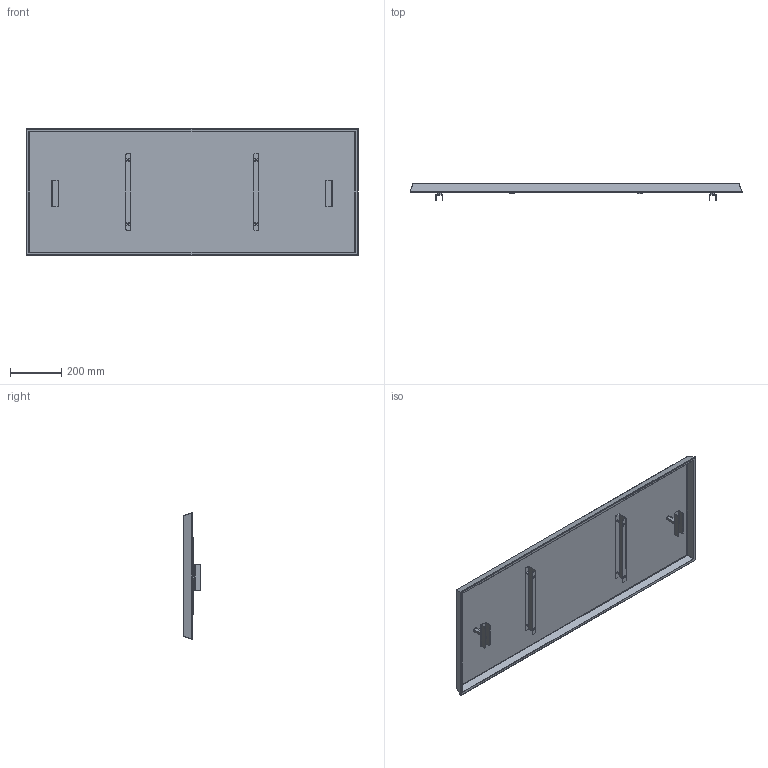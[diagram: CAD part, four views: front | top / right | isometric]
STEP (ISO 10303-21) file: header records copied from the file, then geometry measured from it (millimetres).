
FILE_DESCRIPTION (( 'STEP AP203' ), '1' );
FILE_NAME ('EMTT120040.STEP', '2024-10-22T12:34:20', ( '' ), ( '' ), 'SwSTEP 2.0', 'SolidWorks 2022', '' );
FILE_SCHEMA (( 'CONFIG_CONTROL_DESIGN' ));
Length unit declared in the file: millimetre
Products named in the file (1): EMTT120040
Bounding box: 1299.11 x 69.35 x 495.11 mm (x, y, z)
Volume: 1144377.8 mm3; surface area: 1645325 mm2
Topology: 1 solids, 1 shells, 144 faces, 364 edges, 236 vertices
Faces by surface type: plane 88, cylinder 48, cone 8
Entity records: 4381 total; most frequent: CARTESIAN_POINT 781, ORIENTED_EDGE 728, DIRECTION 722, EDGE_CURVE 364, LINE 272, VECTOR 272, VERTEX_POINT 236, AXIS2_PLACEMENT_3D 225
